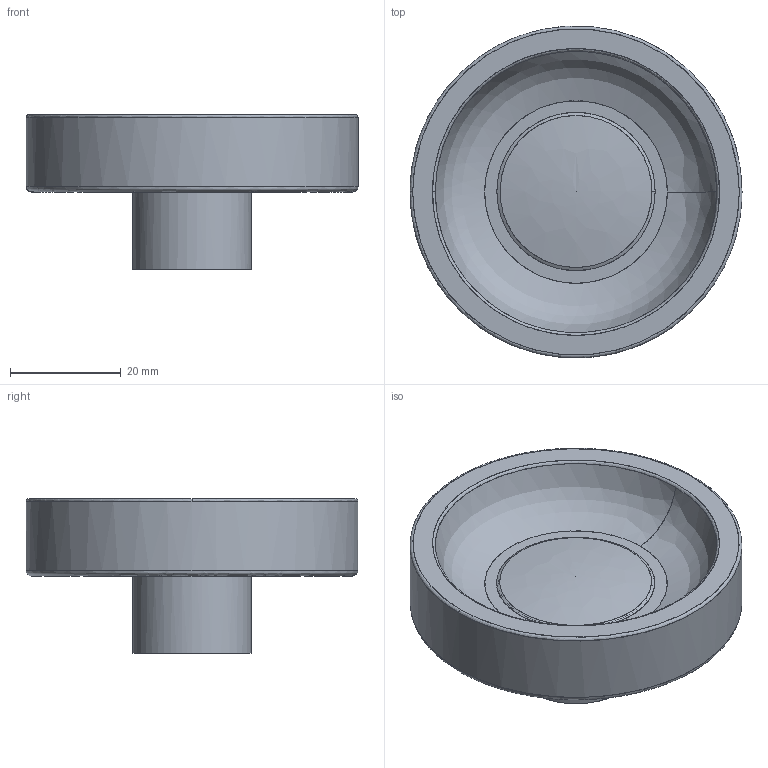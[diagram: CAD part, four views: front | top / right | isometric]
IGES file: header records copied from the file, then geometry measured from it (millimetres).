
Start section: C
Global section: file name: 0101-60.igs; native system: By Siemens PLM Incorporated; preprocessor: XPlus GENERIC/IGES 16.0.42; author: Author; organization: Title; date: 20231211.120155; units: millimetre
Bounding box: 60 x 59.91 x 28 mm (x, y, z)
Surface area: 16557.6 mm2 (no closed solid volume)
Topology: 0 solids, 0 shells, 56 faces, 295 edges, 294 vertices
Faces by surface type: bspline 56
